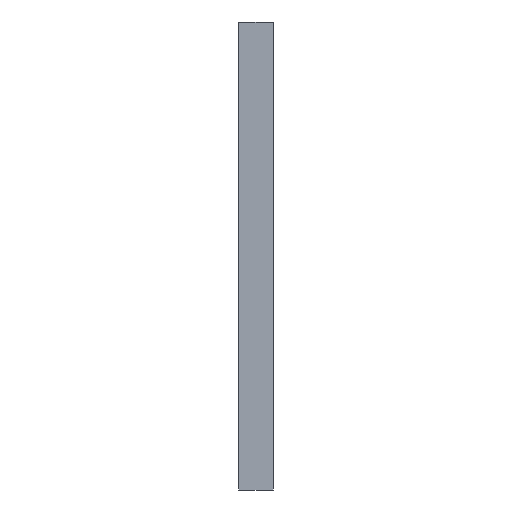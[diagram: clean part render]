
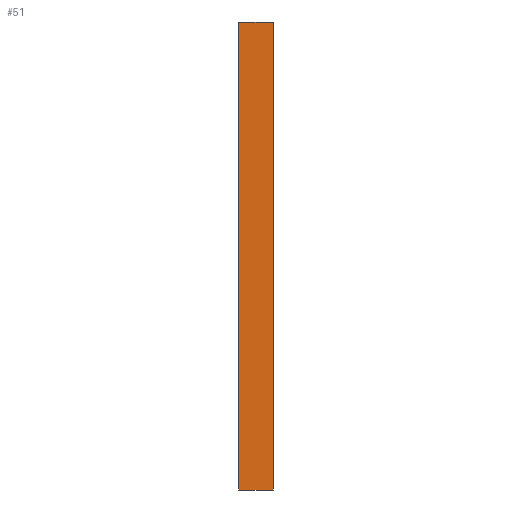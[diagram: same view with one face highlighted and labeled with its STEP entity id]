
A CAD part, left-side view. The second image highlights one B-rep face of the part: STEP entity #51.
In plain terms, the highlighted planar face has unit normal (-1, 0, 0).
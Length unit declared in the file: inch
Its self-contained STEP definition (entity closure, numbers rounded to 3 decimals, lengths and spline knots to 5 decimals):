
#40 = EDGE_LOOP ( 'NONE', ( #322, #555, #309, #539 ) ) ;
#44 = DIRECTION ( 'NONE',  ( 0., 0., 1. ) ) ;
#51 = ADVANCED_FACE ( 'NONE', ( #634 ), #107, .T. ) ;
#71 = DIRECTION ( 'NONE',  ( 0., 0., -1. ) ) ;
#94 = DIRECTION ( 'NONE',  ( 0., 0., -1. ) ) ;
#97 = VECTOR ( 'NONE', #94, 39.37008 ) ;
#107 = PLANE ( 'NONE',  #354 ) ;
#123 = EDGE_CURVE ( 'NONE', #136, #420, #477, .T. ) ;
#136 = VERTEX_POINT ( 'NONE', #182 ) ;
#154 = CARTESIAN_POINT ( 'NONE',  ( -4.125, 0.375, 5.125 ) ) ;
#175 = CARTESIAN_POINT ( 'NONE',  ( -4.125, 0.375, 0. ) ) ;
#182 = CARTESIAN_POINT ( 'NONE',  ( -4.125, 0.375, 5.125 ) ) ;
#188 = CARTESIAN_POINT ( 'NONE',  ( -4.125, 0.375, 0. ) ) ;
#204 = LINE ( 'NONE', #154, #497 ) ;
#209 = VERTEX_POINT ( 'NONE', #307 ) ;
#226 = CARTESIAN_POINT ( 'NONE',  ( -4.125, 0.375, 0. ) ) ;
#229 = CARTESIAN_POINT ( 'NONE',  ( -4.125, 0.375, 0. ) ) ;
#307 = CARTESIAN_POINT ( 'NONE',  ( -4.125, 0., 0. ) ) ;
#309 = ORIENTED_EDGE ( 'NONE', *, *, #123, .T. ) ;
#322 = ORIENTED_EDGE ( 'NONE', *, *, #410, .F. ) ;
#331 = CARTESIAN_POINT ( 'NONE',  ( -4.125, 0., 0. ) ) ;
#354 = AXIS2_PLACEMENT_3D ( 'NONE', #229, #524, #44 ) ;
#384 = VECTOR ( 'NONE', #414, 39.37008 ) ;
#387 = EDGE_CURVE ( 'NONE', #136, #462, #204, .T. ) ;
#410 = EDGE_CURVE ( 'NONE', #462, #209, #633, .T. ) ;
#414 = DIRECTION ( 'NONE',  ( 0., -1., 0. ) ) ;
#417 = LINE ( 'NONE', #175, #384 ) ;
#420 = VERTEX_POINT ( 'NONE', #226 ) ;
#462 = VERTEX_POINT ( 'NONE', #585 ) ;
#477 = LINE ( 'NONE', #188, #708 ) ;
#497 = VECTOR ( 'NONE', #672, 39.37008 ) ;
#524 = DIRECTION ( 'NONE',  ( -1., 0., 0. ) ) ;
#539 = ORIENTED_EDGE ( 'NONE', *, *, #598, .T. ) ;
#555 = ORIENTED_EDGE ( 'NONE', *, *, #387, .F. ) ;
#585 = CARTESIAN_POINT ( 'NONE',  ( -4.125, 0., 5.125 ) ) ;
#598 = EDGE_CURVE ( 'NONE', #420, #209, #417, .T. ) ;
#633 = LINE ( 'NONE', #331, #97 ) ;
#634 = FACE_OUTER_BOUND ( 'NONE', #40, .T. ) ;
#672 = DIRECTION ( 'NONE',  ( 0., -1., 0. ) ) ;
#708 = VECTOR ( 'NONE', #71, 39.37008 ) ;
